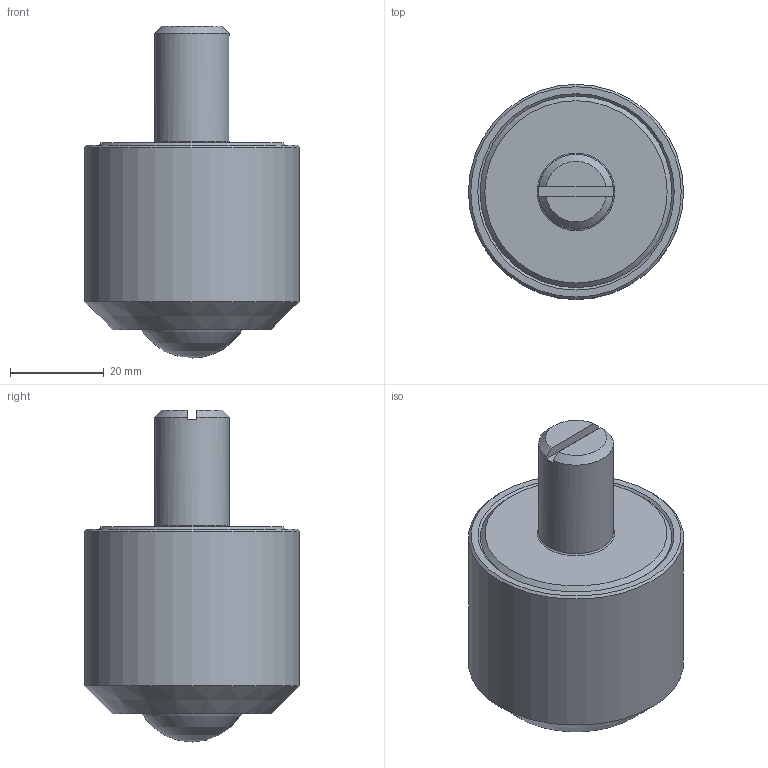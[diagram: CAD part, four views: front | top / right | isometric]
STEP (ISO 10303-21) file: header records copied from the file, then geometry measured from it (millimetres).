
FILE_DESCRIPTION(/* description */ (''),/* implementation_level */ '2;1');
FILE_NAME(/* name */ 'Z:\80-CAD共有ファイル\製品3D\X2\30C730FC30BF\X0\\13-IK-NM\IK-25NM.stp',/* time_stamp */ '2015-01-07T09:42:25+09:00',/* author */ ('yamaki'),/* organization */ (''),/* preprocessor_version */ 'ST-DEVELOPER v15.6',/* originating_system */ 'Autodesk Inventor 2015',/* authorisation */ '');
FILE_SCHEMA (('AUTOMOTIVE_DESIGN { 1 0 10303 214 3 1 1 }'));
Length unit declared in the file: millimetre
Products named in the file (1): 1325AA
Bounding box: 46 x 46 x 71 mm (x, y, z)
Volume: 69476.5 mm3; surface area: 11798.9 mm2
Topology: 1 solids, 1 shells, 22 faces, 46 edges, 29 vertices
Faces by surface type: plane 9, cone 7, cylinder 4, sphere 1, torus 1
Full cylindrical faces by diameter (mm): 16 x1, 22.7 x1, 26 x1, 46 x1
Entity records: 557 total; most frequent: DIRECTION 94, CARTESIAN_POINT 89, ORIENTED_EDGE 64, AXIS2_PLACEMENT_3D 43, EDGE_LOOP 36, EDGE_CURVE 32, VERTEX_POINT 26, STYLED_ITEM 23
